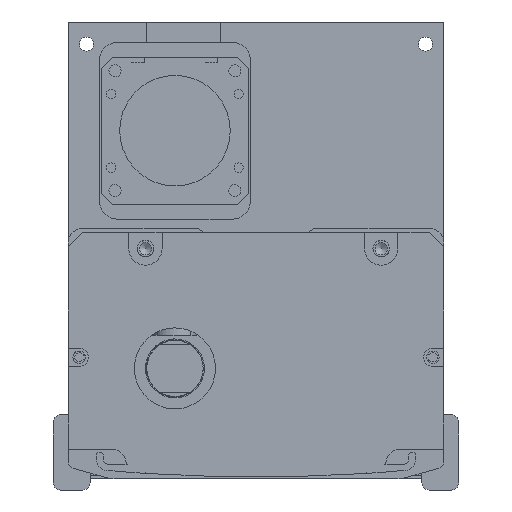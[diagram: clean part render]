
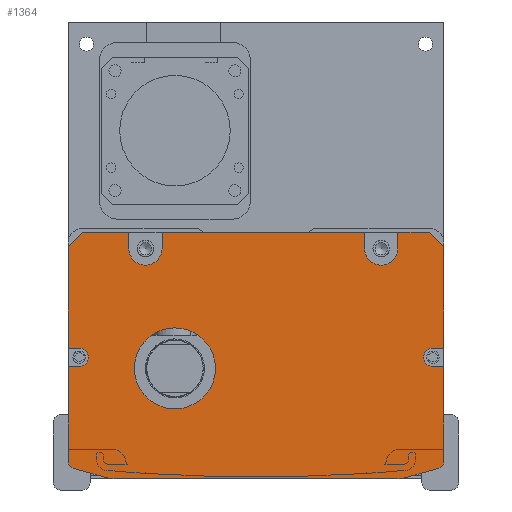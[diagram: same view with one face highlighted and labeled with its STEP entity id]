
A CAD part, front view. The second image highlights one B-rep face of the part: STEP entity #1364.
In plain terms, the highlighted planar face has unit normal (0, -1, 0).
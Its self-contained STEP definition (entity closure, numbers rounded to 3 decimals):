
#1364=ADVANCED_FACE('',(#4036,#4037),#2163,.F.);
#2163=PLANE('',#13208);
#2555=LINE('',#18918,#3317);
#2556=LINE('',#18921,#3318);
#2557=LINE('',#18923,#3319);
#2558=LINE('',#18925,#3320);
#2559=LINE('',#18929,#3321);
#2560=LINE('',#18931,#3322);
#2561=LINE('',#18933,#3323);
#2562=LINE('',#18937,#3324);
#2563=LINE('',#18939,#3325);
#2564=LINE('',#18941,#3326);
#2565=LINE('',#18943,#3327);
#2566=LINE('',#18945,#3328);
#2567=LINE('',#18949,#3329);
#2568=LINE('',#18951,#3330);
#2569=LINE('',#18955,#3331);
#2570=LINE('',#18959,#3332);
#2571=LINE('',#18963,#3333);
#2572=LINE('',#18967,#3334);
#2573=LINE('',#18969,#3335);
#2574=LINE('',#18973,#3336);
#3317=VECTOR('',#14979,1.);
#3318=VECTOR('',#14980,1.);
#3319=VECTOR('',#14981,1.);
#3320=VECTOR('',#14982,1.);
#3321=VECTOR('',#14985,1.);
#3322=VECTOR('',#14986,1.);
#3323=VECTOR('',#14987,1.);
#3324=VECTOR('',#14990,1.);
#3325=VECTOR('',#14991,1.);
#3326=VECTOR('',#14992,1.);
#3327=VECTOR('',#14993,1.);
#3328=VECTOR('',#14994,1.);
#3329=VECTOR('',#14997,1.);
#3330=VECTOR('',#14998,1.);
#3331=VECTOR('',#15001,1.);
#3332=VECTOR('',#15004,1.);
#3333=VECTOR('',#15007,1.);
#3334=VECTOR('',#15010,1.);
#3335=VECTOR('',#15011,1.);
#3336=VECTOR('',#15014,1.);
#4036=FACE_BOUND('',#4736,.T.);
#4037=FACE_BOUND('',#4737,.T.);
#4736=EDGE_LOOP('',(#6051,#6052,#6053,#6054,#6055,#6056,#6057,#6058,#6059,
#6060,#6061,#6062,#6063,#6064,#6065,#6066,#6067,#6068,#6069,#6070,#6071,
#6072,#6073,#6074,#6075,#6076,#6077,#6078));
#4737=EDGE_LOOP('',(#6079));
#6051=ORIENTED_EDGE('',*,*,#10779,.T.);
#6052=ORIENTED_EDGE('',*,*,#10780,.T.);
#6053=ORIENTED_EDGE('',*,*,#10781,.T.);
#6054=ORIENTED_EDGE('',*,*,#10782,.F.);
#6055=ORIENTED_EDGE('',*,*,#10783,.T.);
#6056=ORIENTED_EDGE('',*,*,#10784,.F.);
#6057=ORIENTED_EDGE('',*,*,#10785,.T.);
#6058=ORIENTED_EDGE('',*,*,#10786,.F.);
#6059=ORIENTED_EDGE('',*,*,#10787,.T.);
#6060=ORIENTED_EDGE('',*,*,#10788,.F.);
#6061=ORIENTED_EDGE('',*,*,#10789,.T.);
#6062=ORIENTED_EDGE('',*,*,#10790,.T.);
#6063=ORIENTED_EDGE('',*,*,#10791,.T.);
#6064=ORIENTED_EDGE('',*,*,#10792,.T.);
#6065=ORIENTED_EDGE('',*,*,#10793,.T.);
#6066=ORIENTED_EDGE('',*,*,#10794,.T.);
#6067=ORIENTED_EDGE('',*,*,#10795,.T.);
#6068=ORIENTED_EDGE('',*,*,#10796,.T.);
#6069=ORIENTED_EDGE('',*,*,#10797,.T.);
#6070=ORIENTED_EDGE('',*,*,#10798,.T.);
#6071=ORIENTED_EDGE('',*,*,#10799,.T.);
#6072=ORIENTED_EDGE('',*,*,#10800,.T.);
#6073=ORIENTED_EDGE('',*,*,#10801,.T.);
#6074=ORIENTED_EDGE('',*,*,#10802,.T.);
#6075=ORIENTED_EDGE('',*,*,#10803,.T.);
#6076=ORIENTED_EDGE('',*,*,#10804,.T.);
#6077=ORIENTED_EDGE('',*,*,#10805,.T.);
#6078=ORIENTED_EDGE('',*,*,#10806,.T.);
#6079=ORIENTED_EDGE('',*,*,#10807,.T.);
#9518=VERTEX_POINT('',#18919);
#9519=VERTEX_POINT('',#18920);
#9520=VERTEX_POINT('',#18922);
#9521=VERTEX_POINT('',#18924);
#9522=VERTEX_POINT('',#18926);
#9523=VERTEX_POINT('',#18928);
#9524=VERTEX_POINT('',#18930);
#9525=VERTEX_POINT('',#18932);
#9526=VERTEX_POINT('',#18934);
#9527=VERTEX_POINT('',#18936);
#9528=VERTEX_POINT('',#18938);
#9529=VERTEX_POINT('',#18940);
#9530=VERTEX_POINT('',#18942);
#9531=VERTEX_POINT('',#18944);
#9532=VERTEX_POINT('',#18946);
#9533=VERTEX_POINT('',#18948);
#9534=VERTEX_POINT('',#18950);
#9535=VERTEX_POINT('',#18952);
#9536=VERTEX_POINT('',#18954);
#9537=VERTEX_POINT('',#18956);
#9538=VERTEX_POINT('',#18958);
#9539=VERTEX_POINT('',#18960);
#9540=VERTEX_POINT('',#18962);
#9541=VERTEX_POINT('',#18964);
#9542=VERTEX_POINT('',#18966);
#9543=VERTEX_POINT('',#18968);
#9544=VERTEX_POINT('',#18970);
#9545=VERTEX_POINT('',#18972);
#9546=VERTEX_POINT('',#18975);
#10779=EDGE_CURVE('',#9518,#9519,#2555,.T.);
#10780=EDGE_CURVE('',#9519,#9520,#2556,.T.);
#10781=EDGE_CURVE('',#9520,#9521,#2557,.T.);
#10782=EDGE_CURVE('',#9522,#9521,#2558,.T.);
#10783=EDGE_CURVE('',#9522,#9523,#12418,.T.);
#10784=EDGE_CURVE('',#9524,#9523,#2559,.T.);
#10785=EDGE_CURVE('',#9524,#9525,#2560,.T.);
#10786=EDGE_CURVE('',#9526,#9525,#2561,.T.);
#10787=EDGE_CURVE('',#9526,#9527,#12419,.T.);
#10788=EDGE_CURVE('',#9528,#9527,#2562,.T.);
#10789=EDGE_CURVE('',#9528,#9529,#2563,.T.);
#10790=EDGE_CURVE('',#9529,#9530,#2564,.T.);
#10791=EDGE_CURVE('',#9530,#9531,#2565,.T.);
#10792=EDGE_CURVE('',#9531,#9532,#2566,.T.);
#10793=EDGE_CURVE('',#9532,#9533,#12420,.T.);
#10794=EDGE_CURVE('',#9533,#9534,#2567,.T.);
#10795=EDGE_CURVE('',#9534,#9535,#2568,.T.);
#10796=EDGE_CURVE('',#9535,#9536,#12421,.T.);
#10797=EDGE_CURVE('',#9536,#9537,#2569,.T.);
#10798=EDGE_CURVE('',#9537,#9538,#12422,.T.);
#10799=EDGE_CURVE('',#9538,#9539,#2570,.T.);
#10800=EDGE_CURVE('',#9539,#9540,#12423,.T.);
#10801=EDGE_CURVE('',#9540,#9541,#2571,.T.);
#10802=EDGE_CURVE('',#9541,#9542,#12424,.T.);
#10803=EDGE_CURVE('',#9542,#9543,#2572,.T.);
#10804=EDGE_CURVE('',#9543,#9544,#2573,.T.);
#10805=EDGE_CURVE('',#9544,#9545,#12425,.T.);
#10806=EDGE_CURVE('',#9545,#9518,#2574,.T.);
#10807=EDGE_CURVE('',#9546,#9546,#12426,.T.);
#12418=CIRCLE('',#13199,4.5);
#12419=CIRCLE('',#13200,4.5);
#12420=CIRCLE('',#13201,2.5);
#12421=CIRCLE('',#13202,2.);
#12422=CIRCLE('',#13203,10.);
#12423=CIRCLE('',#13204,10.);
#12424=CIRCLE('',#13205,2.);
#12425=CIRCLE('',#13206,2.5);
#12426=CIRCLE('',#13207,11.);
#13199=AXIS2_PLACEMENT_3D('',#18927,#14983,#14984);
#13200=AXIS2_PLACEMENT_3D('',#18935,#14988,#14989);
#13201=AXIS2_PLACEMENT_3D('',#18947,#14995,#14996);
#13202=AXIS2_PLACEMENT_3D('',#18953,#14999,#15000);
#13203=AXIS2_PLACEMENT_3D('',#18957,#15002,#15003);
#13204=AXIS2_PLACEMENT_3D('',#18961,#15005,#15006);
#13205=AXIS2_PLACEMENT_3D('',#18965,#15008,#15009);
#13206=AXIS2_PLACEMENT_3D('',#18971,#15012,#15013);
#13207=AXIS2_PLACEMENT_3D('',#18974,#15015,#15016);
#13208=AXIS2_PLACEMENT_3D('',#18976,#15017,#15018);
#14979=DIRECTION('',(0.,0.,1.));
#14980=DIRECTION('',(-0.707,0.,0.707));
#14981=DIRECTION('',(-1.,0.,0.));
#14982=DIRECTION('',(0.,0.,1.));
#14983=DIRECTION('',(0.,1.,0.));
#14984=DIRECTION('',(0.,0.,1.));
#14985=DIRECTION('',(0.,0.,-1.));
#14986=DIRECTION('',(-1.,0.,0.));
#14987=DIRECTION('',(0.,0.,1.));
#14988=DIRECTION('',(0.,1.,0.));
#14989=DIRECTION('',(0.,0.,1.));
#14990=DIRECTION('',(0.,0.,-1.));
#14991=DIRECTION('',(-1.,0.,0.));
#14992=DIRECTION('',(-0.707,0.,-0.707));
#14993=DIRECTION('',(0.,0.,-1.));
#14994=DIRECTION('',(1.,0.,0.));
#14995=DIRECTION('',(0.,1.,0.));
#14996=DIRECTION('',(0.,0.,1.));
#14997=DIRECTION('',(-1.,0.,0.));
#14998=DIRECTION('',(0.,0.,-1.));
#14999=DIRECTION('',(0.,-1.,0.));
#15000=DIRECTION('',(0.,0.,1.));
#15001=DIRECTION('',(0.963,0.,-0.269));
#15002=DIRECTION('',(0.,-1.,0.));
#15003=DIRECTION('',(0.,0.,1.));
#15004=DIRECTION('',(1.,0.,0.));
#15005=DIRECTION('',(0.,-1.,0.));
#15006=DIRECTION('',(0.,0.,-1.));
#15007=DIRECTION('',(0.963,0.,0.269));
#15008=DIRECTION('',(0.,-1.,0.));
#15009=DIRECTION('',(0.,0.,-1.));
#15010=DIRECTION('',(0.,0.,1.));
#15011=DIRECTION('',(-1.,0.,0.));
#15012=DIRECTION('',(0.,1.,0.));
#15013=DIRECTION('',(0.,0.,1.));
#15014=DIRECTION('',(1.,0.,0.));
#15015=DIRECTION('',(0.,1.,0.));
#15016=DIRECTION('',(0.,0.,1.));
#15017=DIRECTION('',(0.,1.,0.));
#15018=DIRECTION('',(-1.,0.,0.));
#18918=CARTESIAN_POINT('',(47.808,-717.5,-1.));
#18919=CARTESIAN_POINT('',(47.808,-717.5,-32.5));
#18920=CARTESIAN_POINT('',(47.808,-717.5,-5.));
#18921=CARTESIAN_POINT('',(43.808,-717.5,-1.));
#18922=CARTESIAN_POINT('',(43.808,-717.5,-1.));
#18923=CARTESIAN_POINT('',(-3.192,-717.5,-1.));
#18924=CARTESIAN_POINT('',(35.308,-717.5,-1.));
#18925=CARTESIAN_POINT('',(35.308,-717.5,-1.));
#18926=CARTESIAN_POINT('',(35.308,-717.5,-5.5));
#18927=CARTESIAN_POINT('',(30.808,-717.5,-5.5));
#18928=CARTESIAN_POINT('',(26.308,-717.5,-5.5));
#18929=CARTESIAN_POINT('',(26.308,-717.5,-1.));
#18930=CARTESIAN_POINT('',(26.308,-717.5,-1.));
#18931=CARTESIAN_POINT('',(-54.192,-717.5,-1.));
#18932=CARTESIAN_POINT('',(-28.692,-717.5,-1.));
#18933=CARTESIAN_POINT('',(-28.692,-717.5,-3.5));
#18934=CARTESIAN_POINT('',(-28.692,-717.5,-5.5));
#18935=CARTESIAN_POINT('',(-33.192,-717.5,-5.5));
#18936=CARTESIAN_POINT('',(-37.692,-717.5,-5.5));
#18937=CARTESIAN_POINT('',(-37.692,-717.5,-1.));
#18938=CARTESIAN_POINT('',(-37.692,-717.5,-1.));
#18939=CARTESIAN_POINT('',(-54.192,-717.5,-1.));
#18940=CARTESIAN_POINT('',(-50.192,-717.5,-1.));
#18941=CARTESIAN_POINT('',(-54.192,-717.5,-5.));
#18942=CARTESIAN_POINT('',(-54.192,-717.5,-5.));
#18943=CARTESIAN_POINT('',(-54.192,-717.5,-62.));
#18944=CARTESIAN_POINT('',(-54.192,-717.5,-32.5));
#18945=CARTESIAN_POINT('',(-3.192,-717.5,-32.5));
#18946=CARTESIAN_POINT('',(-51.192,-717.5,-32.5));
#18947=CARTESIAN_POINT('',(-51.192,-717.5,-35.));
#18948=CARTESIAN_POINT('',(-51.192,-717.5,-37.5));
#18949=CARTESIAN_POINT('',(-3.192,-717.5,-37.5));
#18950=CARTESIAN_POINT('',(-54.192,-717.5,-37.5));
#18951=CARTESIAN_POINT('',(-54.192,-717.5,-62.));
#18952=CARTESIAN_POINT('',(-54.192,-717.5,-63.212));
#18953=CARTESIAN_POINT('',(-52.192,-717.5,-63.212));
#18954=CARTESIAN_POINT('',(-52.731,-717.5,-65.138));
#18955=CARTESIAN_POINT('',(-55.807,-717.5,-64.279));
#18956=CARTESIAN_POINT('',(-43.809,-717.5,-67.631));
#18957=CARTESIAN_POINT('',(-41.118,-717.5,-58.));
#18958=CARTESIAN_POINT('',(-41.118,-717.5,-68.));
#18959=CARTESIAN_POINT('',(-54.692,-717.5,-68.));
#18960=CARTESIAN_POINT('',(34.733,-717.5,-68.));
#18961=CARTESIAN_POINT('',(34.733,-717.5,-58.));
#18962=CARTESIAN_POINT('',(37.424,-717.5,-67.631));
#18963=CARTESIAN_POINT('',(49.422,-717.5,-64.279));
#18964=CARTESIAN_POINT('',(46.346,-717.5,-65.138));
#18965=CARTESIAN_POINT('',(45.808,-717.5,-63.212));
#18966=CARTESIAN_POINT('',(47.808,-717.5,-63.212));
#18967=CARTESIAN_POINT('',(47.808,-717.5,-1.));
#18968=CARTESIAN_POINT('',(47.808,-717.5,-37.5));
#18969=CARTESIAN_POINT('',(-3.192,-717.5,-37.5));
#18970=CARTESIAN_POINT('',(44.808,-717.5,-37.5));
#18971=CARTESIAN_POINT('',(44.808,-717.5,-35.));
#18972=CARTESIAN_POINT('',(44.808,-717.5,-32.5));
#18973=CARTESIAN_POINT('',(-3.192,-717.5,-32.5));
#18974=CARTESIAN_POINT('',(-25.192,-717.5,-38.));
#18975=CARTESIAN_POINT('',(-25.192,-717.5,-27.));
#18976=CARTESIAN_POINT('',(-3.192,-717.5,-1.));
